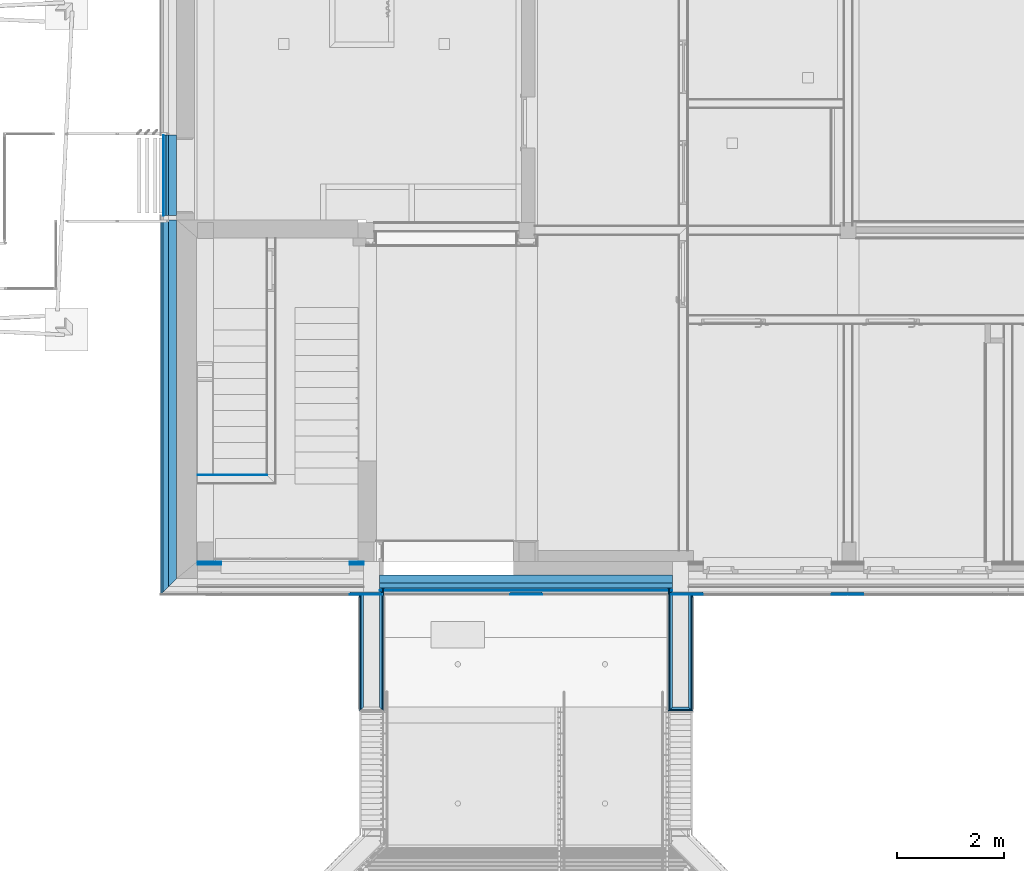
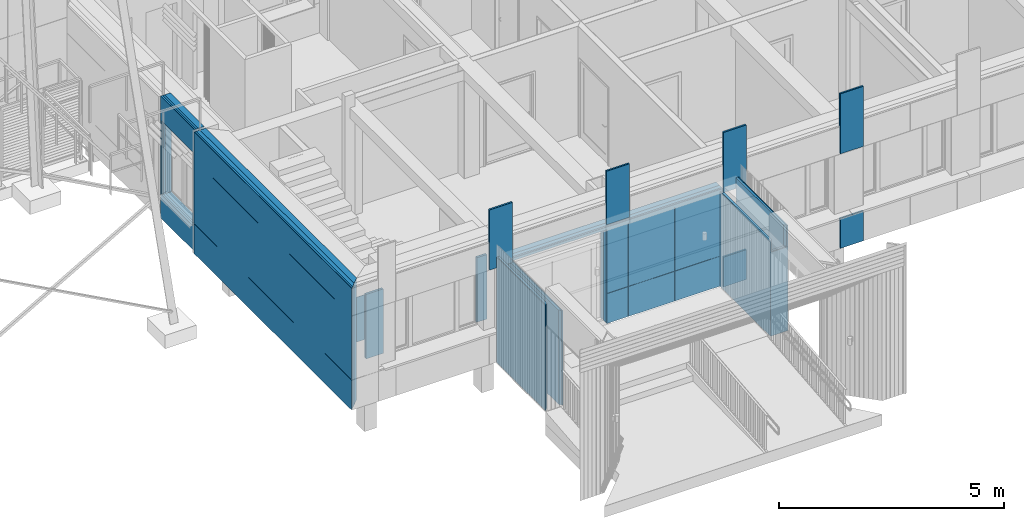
# One storey, part 30 of 418: 37 building element parts, 14 openings, 16 elements without a shape of their own.
"""IFC2X3 building model written with IfcOpenShell, lengths in millimetres."""

from ifc_helpers import new_model, entity, si_unit, converted_unit, derived_unit, money_unit, direction, frame, origin_with_axes, origin_2d_with_axis, place, context, subcontext, project, spatial, polyline, rectangle, outline, extrude, material, type_object, element, aggregate, save


model = new_model("IFC2X3")

# Units and contexts
model_context = context("Model", 3, precision=0.01, world=origin_with_axes(), true_north=direction((0.0, 1.0)))
body_context = subcontext(model_context, "Body", "Model", "MODEL_VIEW")
ifc_project = project(units=[si_unit("LENGTHUNIT", "METRE", prefix="MILLI"), si_unit("AREAUNIT", "SQUARE_METRE"), si_unit("VOLUMEUNIT", "CUBIC_METRE"), converted_unit("PLANEANGLEUNIT", "DEGREE", entity("IfcPlaneAngleMeasure", 0.0174532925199), si_unit("PLANEANGLEUNIT", "RADIAN"), dimensions=[0, 0, 0, 0, 0, 0, 0]), si_unit("SOLIDANGLEUNIT", "STERADIAN"), money_unit("EUR"), converted_unit("TIMEUNIT", "Year", entity("IfcTimeMeasure", 31556926.0), si_unit("TIMEUNIT", "SECOND"), dimensions=[0, 0, 1, 0, 0, 0, 0]), si_unit("MASSUNIT", "GRAM", prefix="KILO"), si_unit("THERMODYNAMICTEMPERATUREUNIT", "DEGREE_CELSIUS"), si_unit("LUMINOUSINTENSITYUNIT", "LUMEN"), si_unit("ENERGYUNIT", "JOULE", prefix="MEGA"), derived_unit("THERMALCONDUCTANCEUNIT", [(si_unit("POWERUNIT", "WATT"), 1), (si_unit("LENGTHUNIT", "METRE"), -1), (si_unit("THERMODYNAMICTEMPERATUREUNIT", "KELVIN"), -1)]), derived_unit("SPECIFICHEATCAPACITYUNIT", [(si_unit("ENERGYUNIT", "JOULE"), 1), (si_unit("MASSUNIT", "GRAM", prefix="KILO"), -1), (si_unit("THERMODYNAMICTEMPERATUREUNIT", "KELVIN"), -1)]), derived_unit("MASSDENSITYUNIT", [(si_unit("MASSUNIT", "GRAM", prefix="KILO"), 1), (si_unit("VOLUMEUNIT", "CUBIC_METRE"), -1)])], contexts=[model_context])

# Site, building, storey
site_placement = place(None, origin_with_axes())
site = spatial("IfcSite", under=ifc_project, at=site_placement, Name="Paldiski mnt 245/1, Tallinn, Harjumaa", CompositionType="COMPLEX")
building_placement = place(site_placement, origin_with_axes())
building = spatial("IfcBuilding", under=site, at=building_placement, Name="RKAS Hoone üldnimetus (kasutust iseloomustav) -> IFC Project Manager -> SOLIBRI", CompositionType="ELEMENT")
storey_placement = place(building_placement, origin_with_axes())
storey = spatial("IfcBuildingStorey", under=building, at=storey_placement, Name="Esimene korrus", CompositionType="ELEMENT", Elevation=0.0)

# Proxy, building element parts
building_element_proxy_type = type_object("IfcBuildingElementProxyType", Name="Varikatuse_sein ots soojustatud 75", PredefinedType="NOTDEFINED")
proxy_1_placement = place(storey_placement, frame((-44490.0, -12830.0843011, 0.0), z_axis=(0.0, 0.0, 1.0), x_axis=(0.0, -1.0, 0.0)))
proxy_1 = element("IfcBuildingElementProxy", 1, at=proxy_1_placement, inside=storey, type_object=building_element_proxy_type, Name="Varikatus")
ifc_material_1 = material(Name="SOJ-04_Soojustus - Mineraal Kõva")
building_element_part_1_placement = place(proxy_1_placement, origin_with_axes())
building_element_part_1 = element("IfcBuildingElementPart", 2, at=building_element_part_1_placement, material=ifc_material_1, Name="SOJ-04_Soojustus - Mineraal Kõva", context=body_context, shape_type="SweptSolid", body=[
    extrude(outline(polyline([(300.0, -50.0), (2451.00000039, -50.0), (2401.00000039, 0.0), (300.0, 0.0), (300.0, -50.0)])), origin_with_axes(), (0.0, 0.0, 1.0), 2852.84271247),
])
ifc_material_2 = material(Name="SKR-01_Õhkvahe - Raam")
building_element_part_2_placement = place(proxy_1_placement, origin_with_axes())
building_element_part_2 = element("IfcBuildingElementPart", 3, at=building_element_part_2_placement, material=ifc_material_2, Name="SKR-01_Õhkvahe - Raam", context=body_context, shape_type="SweptSolid", body=[
    extrude(outline(polyline([(300.0, -75.0), (2476.00000039, -75.0), (2451.00000039, -50.0), (300.0, -50.0), (300.0, -75.0)])), origin_with_axes(), (0.0, 0.0, 1.0), 2852.84271247),
])
aggregate(proxy_1, [building_element_part_1, building_element_part_2])

# Wall, openings, building element parts
wall_type_1 = type_object("IfcWallType", Name="VS-03B_uued kihid 300", PredefinedType="NOTDEFINED")
wall_1_placement = place(storey_placement, frame((-47980.0, -12830.0843011, 0.0), z_axis=(0.0, 0.0, 1.0), x_axis=(0.0, 1.0, 0.0)))
wall_1 = element("IfcWall", 4, at=wall_1_placement, inside=storey, type_object=wall_type_1, Name="VS-03")
opening_1_placement = place(wall_1_placement, frame((5576.00021402, -1.63424829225e-10, 0.0), z_axis=(0.0, 0.0, 1.0), x_axis=(1.0, 0.0, 0.0)))
element("IfcOpeningElement", 5, at=opening_1_placement, cuts=wall_1, Name="Cembrit fassaadiplaadi vuuk", context=body_context, shape_type="SweptSolid", body=[
    extrude(outline(polyline([(-4.0, 0.0), (4.0, 0.0), (4.0, 3300.0), (-4.0, 3300.0), (-4.0, 0.0)])), frame((0.0, 292.0, 0.0), z_axis=(0.0, 1.0, 0.0), x_axis=(-1.0, 0.0, 0.0)), (0.0, 0.0, 1.0), 308.0),
])
opening_2_placement = place(wall_1_placement, frame((4376.00021402, -1.27897692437e-10, 0.0), z_axis=(0.0, 0.0, 1.0), x_axis=(1.0, 0.0, 0.0)))
element("IfcOpeningElement", 6, at=opening_2_placement, cuts=wall_1, Name="Cembrit fassaadiplaadi vuuk", context=body_context, shape_type="SweptSolid", body=[
    extrude(outline(polyline([(-4.0, 0.0), (4.0, 0.0), (4.0, 3300.0), (-4.0, 3300.0), (-4.0, 0.0)])), frame((0.0, 292.0, 0.0), z_axis=(0.0, 1.0, 0.0), x_axis=(-1.0, 0.0, 0.0)), (0.0, 0.0, 1.0), 308.0),
])
opening_3_placement = place(wall_1_placement, frame((3176.00021402, 0.0, 0.0), z_axis=(0.0, 0.0, 1.0), x_axis=(1.0, 0.0, 0.0)))
element("IfcOpeningElement", 7, at=opening_3_placement, cuts=wall_1, Name="Cembrit fassaadiplaadi vuuk", context=body_context, shape_type="SweptSolid", body=[
    extrude(outline(polyline([(-4.0, 0.0), (4.0, 0.0), (4.0, 3300.0), (-4.0, 3300.0), (-4.0, 0.0)])), frame((0.0, 292.0, 0.0), z_axis=(0.0, 1.0, 0.0), x_axis=(-1.0, 0.0, 0.0)), (0.0, 0.0, 1.0), 308.0),
])
opening_4_placement = place(wall_1_placement, frame((1976.00021402, 0.0, 0.0), z_axis=(0.0, 0.0, 1.0), x_axis=(1.0, 0.0, 0.0)))
element("IfcOpeningElement", 8, at=opening_4_placement, cuts=wall_1, Name="Cembrit fassaadiplaadi vuuk", context=body_context, shape_type="SweptSolid", body=[
    extrude(outline(polyline([(-4.0, 0.0), (4.0, 0.0), (4.0, 3300.0), (-4.0, 3300.0), (-4.0, 0.0)])), frame((0.0, 292.0, 0.0), z_axis=(0.0, 1.0, 0.0), x_axis=(-1.0, 0.0, 0.0)), (0.0, 0.0, 1.0), 308.0),
])
opening_5_placement = place(wall_1_placement, frame((776.000214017, 0.0, 0.0), z_axis=(0.0, 0.0, 1.0), x_axis=(1.0, 0.0, 0.0)))
element("IfcOpeningElement", 9, at=opening_5_placement, cuts=wall_1, Name="Cembrit fassaadiplaadi vuuk", context=body_context, shape_type="SweptSolid", body=[
    extrude(outline(polyline([(-4.0, 0.0), (4.0, 0.0), (4.0, 3300.0), (-4.0, 3300.0), (-4.0, 0.0)])), frame((0.0, 292.0, 0.0), z_axis=(0.0, 1.0, 0.0), x_axis=(-1.0, 0.0, 0.0)), (0.0, 0.0, 1.0), 308.0),
])
opening_6_placement = place(wall_1_placement, frame((3200.00010701, 0.0, 2552.0), z_axis=(0.0, 0.0, 1.0), x_axis=(1.0, 0.0, 0.0)))
element("IfcOpeningElement", 10, at=opening_6_placement, cuts=wall_1, Name="Cembrit fassaadiplaadi vuuk", context=body_context, shape_type="SweptSolid", body=[
    extrude(outline(polyline([(-3500.00010701, 0.0), (3500.00010701, 0.0), (3500.00010701, 8.0), (-3500.00010701, 8.0), (-3500.00010701, 0.0)])), frame((0.0, 292.0, 0.0), z_axis=(0.0, 1.0, 0.0), x_axis=(-1.0, 0.0, 0.0)), (0.0, 0.0, 1.0), 308.0),
])
opening_7_placement = place(wall_1_placement, frame((3200.00010701, 0.0, 810.0), z_axis=(0.0, 0.0, 1.0), x_axis=(1.0, 0.0, 0.0)))
element("IfcOpeningElement", 11, at=opening_7_placement, cuts=wall_1, Name="Cembrit fassaadiplaadi vuuk", context=body_context, shape_type="SweptSolid", body=[
    extrude(outline(polyline([(-3500.00010701, 0.0), (3500.00010701, 0.0), (3500.00010701, 8.0), (-3500.00010701, 8.0), (-3500.00010701, 0.0)])), frame((0.0, 292.0, 0.0), z_axis=(0.0, 1.0, 0.0), x_axis=(-1.0, 0.0, 0.0)), (0.0, 0.0, 1.0), 308.0),
])
ifc_material_3 = material(Name="Cembrit_C020")
building_element_part_3_placement = place(wall_1_placement, origin_with_axes())
building_element_part_3 = element("IfcBuildingElementPart", 12, at=building_element_part_3_placement, material=ifc_material_3, Name="Cembrit_C020", context=body_context, shape_type="SweptSolid", body=[
    extrude(outline(polyline([(-292.0, 292.0), (6700.00021402, 292.0), (6700.00021402, 300.0), (-300.0, 300.0), (-292.0, 292.0)])), origin_with_axes(), (0.0, 0.0, 1.0), 3300.0),
])
ifc_material_4 = material(Name="VKR-06_Õhkvahe")
building_element_part_4_placement = place(wall_1_placement, origin_with_axes())
building_element_part_4 = element("IfcBuildingElementPart", 13, at=building_element_part_4_placement, material=ifc_material_4, Name="VKR-06_Õhkvahe", context=body_context, shape_type="SweptSolid", body=[
    extrude(outline(polyline([(-250.0, 250.0), (6700.00021402, 250.0), (6700.00021402, 292.0), (-292.0, 292.0), (-250.0, 250.0)])), origin_with_axes(), (0.0, 0.0, 1.0), 3300.0),
])
ifc_material_5 = material(Name="Kingspan Kooltherm")
building_element_part_5_placement = place(wall_1_placement, origin_with_axes())
building_element_part_5 = element("IfcBuildingElementPart", 14, at=building_element_part_5_placement, material=ifc_material_5, Name="Kingspan Kooltherm", context=body_context, shape_type="SweptSolid", body=[
    extrude(outline(polyline([(-150.0, 150.0), (6700.00021402, 150.0), (6700.00021402, 250.0), (-250.0, 250.0), (-150.0, 150.0)])), origin_with_axes(), (0.0, 0.0, 1.0), 3300.0),
])
building_element_part_6_placement = place(wall_1_placement, origin_with_axes())
building_element_part_6 = element("IfcBuildingElementPart", 15, at=building_element_part_6_placement, material=ifc_material_5, Name="Kingspan Kooltherm", context=body_context, shape_type="SweptSolid", body=[
    extrude(outline(polyline([(0.0, 0.0), (6700.00021402, 0.0), (6700.00021402, 150.0), (-150.0, 150.0), (0.0, 0.0)])), origin_with_axes(), (0.0, 0.0, 1.0), 3300.0),
])
aggregate(wall_1, [building_element_part_3, building_element_part_4, building_element_part_5, building_element_part_6])

# Covering, building element parts
covering_type = type_object("IfcCoveringType", Name="VS-02_Cembrit_c040 50", PredefinedType="NOTDEFINED")
covering_1_placement = place(storey_placement, frame((-38746.0, -13130.0843011, 0.0), z_axis=(0.0, 0.0, 1.0), x_axis=(1.0, 0.0, 0.0)))
covering_1 = element("IfcCovering", 16, at=covering_1_placement, inside=storey, type_object=covering_type, Name="VS-02", PredefinedType="NOTDEFINED")
ifc_material_6 = material(Name="Cembrit_C040")
building_element_part_7_placement = place(covering_1_placement, origin_with_axes())
building_element_part_7 = element("IfcBuildingElementPart", 17, at=building_element_part_7_placement, material=ifc_material_6, Name="Cembrit_C040", context=body_context, shape_type="SweptSolid", body=[
    extrude(outline(polyline([(0.0, 0.0), (592.0, 0.0), (592.0, 8.0), (0.0, 8.0), (0.0, 0.0)])), origin_with_axes(), (0.0, 0.0, 1.0), 810.0),
])
building_element_part_8_placement = place(covering_1_placement, origin_with_axes())
building_element_part_8 = element("IfcBuildingElementPart", 18, at=building_element_part_8_placement, material=ifc_material_4, Name="VKR-06_Õhkvahe", context=body_context, shape_type="SweptSolid", body=[
    extrude(outline(polyline([(0.0, 8.0), (592.0, 8.0), (592.0, 50.0), (0.0, 50.0), (0.0, 8.0)])), origin_with_axes(), (0.0, 0.0, 1.0), 810.0),
])
aggregate(covering_1, [building_element_part_7, building_element_part_8])

covering_2_placement = place(storey_placement, frame((-35746.0, -13130.0843011, 0.0), z_axis=(0.0, 0.0, 1.0), x_axis=(1.0, 0.0, 0.0)))
covering_2 = element("IfcCovering", 19, at=covering_2_placement, inside=storey, type_object=covering_type, Name="VS-02", PredefinedType="NOTDEFINED")
building_element_part_9_placement = place(covering_2_placement, origin_with_axes())
building_element_part_9 = element("IfcBuildingElementPart", 20, at=building_element_part_9_placement, material=ifc_material_6, Name="Cembrit_C040", context=body_context, shape_type="SweptSolid", body=[
    extrude(outline(polyline([(0.0, 0.0), (592.0, 0.0), (592.0, 8.0), (0.0, 8.0), (0.0, 0.0)])), origin_with_axes(), (0.0, 0.0, 1.0), 810.0),
])
building_element_part_10_placement = place(covering_2_placement, origin_with_axes())
building_element_part_10 = element("IfcBuildingElementPart", 21, at=building_element_part_10_placement, material=ifc_material_4, Name="VKR-06_Õhkvahe", context=body_context, shape_type="SweptSolid", body=[
    extrude(outline(polyline([(0.0, 8.0), (592.0, 8.0), (592.0, 50.0), (0.0, 50.0), (0.0, 8.0)])), origin_with_axes(), (0.0, 0.0, 1.0), 810.0),
])
aggregate(covering_2, [building_element_part_9, building_element_part_10])

covering_3_placement = place(storey_placement, frame((-44746.0, -13130.0843011, 2560.0), z_axis=(0.0, 0.0, 1.0), x_axis=(1.0, 0.0, 0.0)))
covering_3 = element("IfcCovering", 22, at=covering_3_placement, inside=storey, type_object=covering_type, Name="VS-02", PredefinedType="NOTDEFINED")
building_element_part_11_placement = place(covering_3_placement, origin_with_axes())
building_element_part_11 = element("IfcBuildingElementPart", 23, at=building_element_part_11_placement, material=ifc_material_6, Name="Cembrit_C040", context=body_context, shape_type="SweptSolid", body=[
    extrude(outline(polyline([(0.0, 0.0), (592.0, 0.0), (592.0, 8.0), (0.0, 8.0), (0.0, 0.0)])), origin_with_axes(), (0.0, 0.0, 1.0), 1630.0),
])
building_element_part_12_placement = place(covering_3_placement, origin_with_axes())
building_element_part_12 = element("IfcBuildingElementPart", 24, at=building_element_part_12_placement, material=ifc_material_4, Name="VKR-06_Õhkvahe", context=body_context, shape_type="SweptSolid", body=[
    extrude(outline(polyline([(0.0, 8.0), (592.0, 8.0), (592.0, 50.0), (0.0, 50.0), (0.0, 8.0)])), origin_with_axes(), (0.0, 0.0, 1.0), 1630.0),
])
aggregate(covering_3, [building_element_part_11, building_element_part_12])

covering_4_placement = place(storey_placement, frame((-41746.0, -13130.0843011, 2737.98526126), z_axis=(0.0, 0.0, 1.0), x_axis=(1.0, 0.0, 0.0)))
covering_4 = element("IfcCovering", 25, at=covering_4_placement, inside=storey, type_object=covering_type, Name="VS-02", PredefinedType="NOTDEFINED")
building_element_part_13_placement = place(covering_4_placement, origin_with_axes())
building_element_part_13 = element("IfcBuildingElementPart", 26, at=building_element_part_13_placement, material=ifc_material_6, Name="Cembrit_C040", context=body_context, shape_type="SweptSolid", body=[
    extrude(outline(polyline([(0.0, 0.0), (592.0, 0.0), (592.0, 8.0), (0.0, 8.0), (0.0, 0.0)])), origin_with_axes(), (0.0, 0.0, 1.0), 1452.01473874),
])
building_element_part_14_placement = place(covering_4_placement, origin_with_axes())
building_element_part_14 = element("IfcBuildingElementPart", 27, at=building_element_part_14_placement, material=ifc_material_4, Name="VKR-06_Õhkvahe", context=body_context, shape_type="SweptSolid", body=[
    extrude(outline(polyline([(0.0, 8.0), (592.0, 8.0), (592.0, 50.0), (0.0, 50.0), (0.0, 8.0)])), origin_with_axes(), (0.0, 0.0, 1.0), 1452.01473874),
])
aggregate(covering_4, [building_element_part_13, building_element_part_14])

covering_5_placement = place(storey_placement, frame((-38746.0, -13130.0843011, 2560.0), z_axis=(0.0, 0.0, 1.0), x_axis=(1.0, 0.0, 0.0)))
covering_5 = element("IfcCovering", 28, at=covering_5_placement, inside=storey, type_object=covering_type, Name="VS-02", PredefinedType="NOTDEFINED")
building_element_part_15_placement = place(covering_5_placement, origin_with_axes())
building_element_part_15 = element("IfcBuildingElementPart", 29, at=building_element_part_15_placement, material=ifc_material_6, Name="Cembrit_C040", context=body_context, shape_type="SweptSolid", body=[
    extrude(outline(polyline([(0.0, 0.0), (592.0, 0.0), (592.0, 8.0), (0.0, 8.0), (0.0, 0.0)])), origin_with_axes(), (0.0, 0.0, 1.0), 1630.0),
])
building_element_part_16_placement = place(covering_5_placement, origin_with_axes())
building_element_part_16 = element("IfcBuildingElementPart", 30, at=building_element_part_16_placement, material=ifc_material_4, Name="VKR-06_Õhkvahe", context=body_context, shape_type="SweptSolid", body=[
    extrude(outline(polyline([(0.0, 8.0), (592.0, 8.0), (592.0, 50.0), (0.0, 50.0), (0.0, 8.0)])), origin_with_axes(), (0.0, 0.0, 1.0), 1630.0),
])
aggregate(covering_5, [building_element_part_15, building_element_part_16])

covering_6_placement = place(storey_placement, frame((-35746.0, -13130.0843011, 2560.0), z_axis=(0.0, 0.0, 1.0), x_axis=(1.0, 0.0, 0.0)))
covering_6 = element("IfcCovering", 31, at=covering_6_placement, inside=storey, type_object=covering_type, Name="VS-02", PredefinedType="NOTDEFINED")
building_element_part_17_placement = place(covering_6_placement, origin_with_axes())
building_element_part_17 = element("IfcBuildingElementPart", 32, at=building_element_part_17_placement, material=ifc_material_6, Name="Cembrit_C040", context=body_context, shape_type="SweptSolid", body=[
    extrude(outline(polyline([(0.0, 0.0), (592.0, 0.0), (592.0, 8.0), (0.0, 8.0), (0.0, 0.0)])), origin_with_axes(), (0.0, 0.0, 1.0), 1630.0),
])
building_element_part_18_placement = place(covering_6_placement, origin_with_axes())
building_element_part_18 = element("IfcBuildingElementPart", 33, at=building_element_part_18_placement, material=ifc_material_4, Name="VKR-06_Õhkvahe", context=body_context, shape_type="SweptSolid", body=[
    extrude(outline(polyline([(0.0, 8.0), (592.0, 8.0), (592.0, 50.0), (0.0, 50.0), (0.0, 8.0)])), origin_with_axes(), (0.0, 0.0, 1.0), 1630.0),
])
aggregate(covering_6, [building_element_part_17, building_element_part_18])

# Proxy, building element parts
proxy_2_placement = place(storey_placement, frame((-38420.0, -15231.0843015, 0.0), z_axis=(0.0, 0.0, 1.0), x_axis=(0.0, 1.0, 0.0)))
proxy_2 = element("IfcBuildingElementProxy", 34, at=proxy_2_placement, inside=storey, type_object=building_element_proxy_type, Name="Varikatus")
building_element_part_19_placement = place(proxy_2_placement, origin_with_axes())
building_element_part_19 = element("IfcBuildingElementPart", 35, at=building_element_part_19_placement, material=ifc_material_1, Name="SOJ-04_Soojustus - Mineraal Kõva", context=body_context, shape_type="SweptSolid", body=[
    extrude(outline(polyline([(-50.0, -50.0), (2101.00000039, -50.0), (2101.00000039, 0.0), (0.0, 0.0), (-50.0, -50.0)])), origin_with_axes(), (0.0, 0.0, 1.0), 2852.84271247),
])
building_element_part_20_placement = place(proxy_2_placement, origin_with_axes())
building_element_part_20 = element("IfcBuildingElementPart", 36, at=building_element_part_20_placement, material=ifc_material_2, Name="SKR-01_Õhkvahe - Raam", context=body_context, shape_type="SweptSolid", body=[
    extrude(outline(polyline([(-75.0, -75.0), (2101.00000039, -75.0), (2101.00000039, -50.0), (-50.0, -50.0), (-75.0, -75.0)])), origin_with_axes(), (0.0, 0.0, 1.0), 2852.84271247),
])
aggregate(proxy_2, [building_element_part_19, building_element_part_20])

proxy_3_placement = place(storey_placement, frame((-38720.0, -13010.0843011, 0.0), z_axis=(0.0, 0.0, 1.0), x_axis=(0.0, -1.0, 0.0)))
proxy_3 = element("IfcBuildingElementProxy", 37, at=proxy_3_placement, inside=storey, type_object=building_element_proxy_type, Name="Varikatus")
building_element_part_21_placement = place(proxy_3_placement, origin_with_axes())
building_element_part_21 = element("IfcBuildingElementPart", 38, at=building_element_part_21_placement, material=ifc_material_1, Name="SOJ-04_Soojustus - Mineraal Kõva", context=body_context, shape_type="SweptSolid", body=[
    extrude(outline(polyline([(0.0, -50.0), (2271.00000039, -50.0), (2221.00000039, 0.0), (0.0, 0.0), (0.0, -50.0)])), origin_with_axes(), (0.0, 0.0, 1.0), 2560.0),
])
building_element_part_22_placement = place(proxy_3_placement, origin_with_axes())
building_element_part_22 = element("IfcBuildingElementPart", 39, at=building_element_part_22_placement, material=ifc_material_2, Name="SKR-01_Õhkvahe - Raam", context=body_context, shape_type="SweptSolid", body=[
    extrude(outline(polyline([(0.0, -75.0), (2296.00000039, -75.0), (2271.00000039, -50.0), (0.0, -50.0), (0.0, -75.0)])), origin_with_axes(), (0.0, 0.0, 1.0), 2560.0),
])
aggregate(proxy_3, [building_element_part_21, building_element_part_22])

proxy_4_placement = place(storey_placement, frame((-38720.0, -15231.0843015, 0.0), z_axis=(0.0, 0.0, 1.0), x_axis=(1.0, 0.0, 0.0)))
proxy_4 = element("IfcBuildingElementProxy", 40, at=proxy_4_placement, inside=storey, type_object=building_element_proxy_type, Name="Varikatus")
building_element_part_23_placement = place(proxy_4_placement, origin_with_axes())
building_element_part_23 = element("IfcBuildingElementPart", 41, at=building_element_part_23_placement, material=ifc_material_1, Name="SOJ-04_Soojustus - Mineraal Kõva", context=body_context, shape_type="SweptSolid", body=[
    extrude(outline(polyline([(-50.0, -50.0), (350.0, -50.0), (300.0, 0.0), (0.0, 0.0), (-50.0, -50.0)])), origin_with_axes(), (0.0, 0.0, 1.0), 2280.0),
])
building_element_part_24_placement = place(proxy_4_placement, origin_with_axes())
building_element_part_24 = element("IfcBuildingElementPart", 42, at=building_element_part_24_placement, material=ifc_material_2, Name="SKR-01_Õhkvahe - Raam", context=body_context, shape_type="SweptSolid", body=[
    extrude(outline(polyline([(-75.0, -75.0), (375.0, -75.0), (350.0, -50.0), (-50.0, -50.0), (-75.0, -75.0)])), origin_with_axes(), (0.0, 0.0, 1.0), 2280.0),
])
aggregate(proxy_4, [building_element_part_23, building_element_part_24])

proxy_5_placement = place(storey_placement, frame((-44190.0, -15231.0843015, 0.0), z_axis=(0.0, 0.0, 1.0), x_axis=(0.0, 1.0, 0.0)))
proxy_5 = element("IfcBuildingElementProxy", 43, at=proxy_5_placement, inside=storey, type_object=building_element_proxy_type, Name="Varikatus")
building_element_part_25_placement = place(proxy_5_placement, origin_with_axes())
building_element_part_25 = element("IfcBuildingElementPart", 44, at=building_element_part_25_placement, material=ifc_material_1, Name="SOJ-04_Soojustus - Mineraal Kõva", context=body_context, shape_type="SweptSolid", body=[
    extrude(outline(polyline([(-50.0, -50.0), (2221.00000039, -50.0), (2221.00000039, 0.0), (0.0, 0.0), (-50.0, -50.0)])), origin_with_axes(), (0.0, 0.0, 1.0), 2560.10177239),
])
building_element_part_26_placement = place(proxy_5_placement, origin_with_axes())
building_element_part_26 = element("IfcBuildingElementPart", 45, at=building_element_part_26_placement, material=ifc_material_2, Name="SKR-01_Õhkvahe - Raam", context=body_context, shape_type="SweptSolid", body=[
    extrude(outline(polyline([(-75.0, -75.0), (2221.00000039, -75.0), (2221.00000039, -50.0), (-50.0, -50.0), (-75.0, -75.0)])), origin_with_axes(), (0.0, 0.0, 1.0), 2560.10177239),
])
aggregate(proxy_5, [building_element_part_25, building_element_part_26])

# Wall, openings, building element parts
wall_type_2 = type_object("IfcWallType", Name="VS-03.1_uued_kihid 250", PredefinedType="NOTDEFINED")
wall_2_placement = place(storey_placement, frame((-47980.0, -4550.08406336, 0.0), z_axis=(0.0, 0.0, 1.0), x_axis=(0.0, -1.0, 0.0)))
wall_2 = element("IfcWall", 46, at=wall_2_placement, inside=storey, type_object=wall_type_2, Name="VS-03.1")
opening_8_placement = place(wall_2_placement, frame((750.000010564, 0.0, 0.0), z_axis=(0.0, 0.0, 1.0), x_axis=(1.0, 0.0, 0.0)))
element("IfcOpeningElement", 47, at=opening_8_placement, cuts=wall_2, Name="Cembrit fassaadiplaadi vuuk", context=body_context, shape_type="SweptSolid", body=[
    extrude(outline(polyline([(-4.0, 0.0), (4.0, 0.0), (4.0, 650.0), (-4.0, 650.0), (-4.0, 0.0)])), frame((0.0, -242.0, 0.0), z_axis=(0.0, -1.0, 0.0), x_axis=(1.0, 0.0, 0.0)), (0.0, 0.0, 1.0), 258.0),
])
opening_9_placement = place(wall_2_placement, frame((750.0, 0.0, 650.0), z_axis=(0.0, 0.0, 1.0), x_axis=(1.0, 0.0, 0.0)))
element("IfcOpeningElement", 48, at=opening_9_placement, cuts=wall_2, Name="A-05", context=body_context, shape_type="SweptSolid", body=[
    extrude(rectangle(XDim=1400.0, YDim=2000.0, at=origin_2d_with_axis()), frame((0.0, -110.0, 1000.0), z_axis=(0.0, -1.0, 0.0), x_axis=(-1.0, 0.0, 0.0)), (0.0, 0.0, 1.0), 390.0),
    extrude(rectangle(XDim=1400.0, YDim=2000.0, at=origin_2d_with_axis()), frame((0.0, -110.0, 1000.0), z_axis=(0.0, 1.0, 0.0), x_axis=(-1.0, 0.0, 0.0)), (0.0, 0.0, 1.0), 360.0),
    extrude(rectangle(XDim=1400.0, YDim=2000.0, at=origin_2d_with_axis()), frame((0.0, 0.0, 1000.0), z_axis=(0.0, 1.0, 0.0), x_axis=(-1.0, 0.0, 0.0)), (0.0, 0.0, 1.0), 390.0),
])
ifc_material_7 = material(Name="Cembrit_C060")
building_element_part_27_placement = place(wall_2_placement, origin_with_axes())
building_element_part_27 = element("IfcBuildingElementPart", 49, at=building_element_part_27_placement, material=ifc_material_7, Name="Cembrit_C060", context=body_context, shape_type="SweptSolid", body=[
    extrude(outline(polyline([(0.0, -250.0), (1500.00002113, -250.0), (1500.00002113, -242.0), (0.0, -242.0), (0.0, -250.0)])), origin_with_axes(), (0.0, 0.0, 1.0), 3300.0),
])
building_element_part_28_placement = place(wall_2_placement, origin_with_axes())
building_element_part_28 = element("IfcBuildingElementPart", 50, at=building_element_part_28_placement, material=ifc_material_4, Name="VKR-06_Õhkvahe", context=body_context, shape_type="SweptSolid", body=[
    extrude(outline(polyline([(0.0, -242.0), (1500.00002113, -242.0), (1500.00002113, -200.0), (0.0, -200.0), (0.0, -242.0)])), origin_with_axes(), (0.0, 0.0, 1.0), 3300.0),
])
building_element_part_29_placement = place(wall_2_placement, origin_with_axes())
building_element_part_29 = element("IfcBuildingElementPart", 51, at=building_element_part_29_placement, material=ifc_material_5, Name="Kingspan Kooltherm", context=body_context, shape_type="SweptSolid", body=[
    extrude(outline(polyline([(0.0, -200.0), (1500.00002113, -200.0), (1500.00002113, -150.0), (0.0, -150.0), (0.0, -200.0)])), origin_with_axes(), (0.0, 0.0, 1.0), 3300.0),
])
building_element_part_30_placement = place(wall_2_placement, origin_with_axes())
building_element_part_30 = element("IfcBuildingElementPart", 52, at=building_element_part_30_placement, material=ifc_material_5, Name="Kingspan Kooltherm", context=body_context, shape_type="SweptSolid", body=[
    extrude(outline(polyline([(0.0, -150.0), (1500.00002113, -150.0), (1500.00002113, 0.0), (0.0, 0.0), (0.0, -150.0)])), origin_with_axes(), (0.0, 0.0, 1.0), 3300.0),
])
aggregate(wall_2, [building_element_part_27, building_element_part_28, building_element_part_29, building_element_part_30])

# Wall, building element part
wall_type_3 = type_object("IfcWallType", Name="SS-04 170", PredefinedType="NOTDEFINED")
wall_3_placement = place(storey_placement, frame((-46130.0, -11060.5008533, 0.0), z_axis=(0.0, 0.0, 1.0), x_axis=(-1.0, 0.0, 0.0)))
wall_3 = element("IfcWall", 53, at=wall_3_placement, inside=storey, type_object=wall_type_3, Name="SS-04")
ifc_material_8 = material(Name="Krohv")
building_element_part_31_placement = place(wall_3_placement, origin_with_axes())
building_element_part_31 = element("IfcBuildingElementPart", 54, at=building_element_part_31_placement, material=ifc_material_8, Name="Krohv", context=body_context, shape_type="SweptSolid", body=[
    extrude(outline(polyline([(170.0, -170.0), (1460.0, -170.0), (1460.0, -160.0), (160.0, -160.0), (170.0, -170.0)])), origin_with_axes(), (0.0, 0.0, 1.0), 1214.63086414),
])
aggregate(wall_3, [building_element_part_31])

# Wall, opening, building element parts
wall_type_4 = type_object("IfcWallType", Name="VS-04_uued_sisekihid 63", PredefinedType="NOTDEFINED")
wall_4_placement = place(storey_placement, frame((-44490.000007, -12512.0843011, 810.0), z_axis=(0.0, 0.0, 1.0), x_axis=(-1.0, 0.0, 0.0)))
wall_4 = element("IfcWall", 55, at=wall_4_placement, inside=storey, type_object=wall_type_4, Name="VS-04")
opening_10_placement = place(wall_4_placement, frame((1459.99999301, 0.0, 0.0), z_axis=(0.0, 0.0, 1.0), x_axis=(1.0, 0.0, 0.0)))
element("IfcOpeningElement", 56, at=opening_10_placement, cuts=wall_4, Name="AVA", context=body_context, shape_type="SweptSolid", body=[
    extrude(rectangle(XDim=2400.0, YDim=1750.0, at=origin_2d_with_axis()), frame((0.0, -17.0, 875.0), z_axis=(0.0, -1.0, 0.0), x_axis=(1.0, 0.0, 0.0)), (0.0, 0.0, -1.0), 143.0),
    extrude(rectangle(XDim=2400.0, YDim=1750.0, at=origin_2d_with_axis()), frame((0.0, -17.0, 875.0), z_axis=(0.0, 1.0, 0.0), x_axis=(1.0, 0.0, 0.0)), (0.0, 0.0, -1.0), 143.0),
])
building_element_part_32_placement = place(wall_4_placement, origin_with_axes())
building_element_part_32 = element("IfcBuildingElementPart", 57, at=building_element_part_32_placement, material=ifc_material_4, Name="VKR-06_Õhkvahe", context=body_context, shape_type="SweptSolid", body=[
    extrude(outline(polyline([(0.0, 13.0), (3099.99999301, 13.0), (3099.99999301, 63.0), (0.0, 63.0), (0.0, 13.0)])), origin_with_axes(), (0.0, 0.0, 1.0), 1750.0),
])
ifc_material_9 = material(Name="Kipsplaat Knauf GKF vm")
building_element_part_33_placement = place(wall_4_placement, origin_with_axes())
building_element_part_33 = element("IfcBuildingElementPart", 58, at=building_element_part_33_placement, material=ifc_material_9, Name="Kipsplaat Knauf GKF vm", context=body_context, shape_type="SweptSolid", body=[
    extrude(outline(polyline([(0.0, 0.0), (3099.99999301, 0.0), (3099.99999301, 13.0), (0.0, 13.0), (0.0, 0.0)])), origin_with_axes(), (0.0, 0.0, 1.0), 1750.0),
])
aggregate(wall_4, [building_element_part_32, building_element_part_33])

# Wall, openings, building element parts
wall_type_5 = type_object("IfcWallType", Name="VS-03N_uued_kihid 300", PredefinedType="NOTDEFINED")
wall_5_placement = place(storey_placement, frame((-38720.0, -12760.0843011, 0.0), z_axis=(0.0, 0.0, 1.0), x_axis=(-1.0, 0.0, 0.0)))
wall_5 = element("IfcWall", 59, at=wall_5_placement, inside=storey, type_object=wall_type_5, Name="VS-03")
opening_11_placement = place(wall_5_placement, frame((1230.0, 0.0, 0.0), z_axis=(0.0, 0.0, 1.0), x_axis=(1.0, 0.0, 0.0)))
element("IfcOpeningElement", 60, at=opening_11_placement, cuts=wall_5, Name="Cembrit fassaadiplaadi vuuk", context=body_context, shape_type="SweptSolid", body=[
    extrude(outline(polyline([(-4.0, 0.0), (4.0, 0.0), (4.0, 2536.94375356), (-4.0, 2536.94375356), (-4.0, 0.0)])), frame((0.0, 292.0, 0.0), z_axis=(0.0, 1.0, 0.0), x_axis=(-1.0, 0.0, 0.0)), (0.0, 0.0, 1.0), 308.0),
])
opening_12_placement = place(wall_5_placement, frame((2430.0, 0.0, 0.0), z_axis=(0.0, 0.0, 1.0), x_axis=(1.0, 0.0, 0.0)))
element("IfcOpeningElement", 61, at=opening_12_placement, cuts=wall_5, Name="Cembrit fassaadiplaadi vuuk", context=body_context, shape_type="SweptSolid", body=[
    extrude(outline(polyline([(-4.0, 0.0), (4.0, 0.0), (4.0, 2536.94375356), (-4.0, 2536.94375356), (-4.0, 0.0)])), frame((0.0, 292.0, 0.0), z_axis=(0.0, 1.0, 0.0), x_axis=(-1.0, 0.0, 0.0)), (0.0, 0.0, 1.0), 308.0),
])
opening_13_placement = place(wall_5_placement, frame((1520.49999047, 0.0, 810.0), z_axis=(0.0, 0.0, 1.0), x_axis=(1.0, 0.0, 0.0)))
element("IfcOpeningElement", 62, at=opening_13_placement, cuts=wall_5, Name="Cembrit fassaadiplaadi vuuk", context=body_context, shape_type="SweptSolid", body=[
    extrude(outline(polyline([(-1449.50000953, 0.0), (1449.50000953, 0.0), (1449.50000953, 8.0), (-1449.50000953, 8.0), (-1449.50000953, 0.0)])), frame((0.0, 292.0, 0.0), z_axis=(0.0, 1.0, 0.0), x_axis=(-1.0, 0.0, 0.0)), (0.0, 0.0, 1.0), 308.0),
])
opening_14_placement = place(wall_5_placement, frame((4184.5, 0.0, 0.0), z_axis=(0.0, 0.0, 1.0), x_axis=(1.0, 0.0, 0.0)))
element("IfcOpeningElement", 63, at=opening_14_placement, cuts=wall_5, Name="VU-01", context=body_context, shape_type="SweptSolid", body=[
    extrude(rectangle(XDim=2430.0, YDim=2550.0, at=origin_2d_with_axis()), frame((0.0, 150.0, 1275.0), z_axis=(0.0, -1.0, 0.0), x_axis=(1.0, 0.0, 0.0)), (0.0, 0.0, -1.0), 450.0),
    extrude(rectangle(XDim=2430.0, YDim=2550.0, at=origin_2d_with_axis()), frame((0.0, 150.0, 1275.0), z_axis=(0.0, 1.0, 0.0), x_axis=(1.0, 0.0, 0.0)), (0.0, 0.0, -1.0), 450.0),
])
building_element_part_34_placement = place(wall_5_placement, origin_with_axes())
building_element_part_34 = element("IfcBuildingElementPart", 64, at=building_element_part_34_placement, material=ifc_material_7, Name="Cembrit_C060", context=body_context, shape_type="SweptSolid", body=[
    extrude(outline(polyline([(0.0, 292.0), (5470.0, 292.0), (5470.0, 300.0), (0.0, 300.0), (0.0, 292.0)])), origin_with_axes(), (0.0, 0.0, 1.0), 2620.0),
])
building_element_part_35_placement = place(wall_5_placement, origin_with_axes())
building_element_part_35 = element("IfcBuildingElementPart", 65, at=building_element_part_35_placement, material=ifc_material_4, Name="VKR-06_Õhkvahe", context=body_context, shape_type="SweptSolid", body=[
    extrude(outline(polyline([(0.0, 250.0), (5470.0, 250.0), (5470.0, 292.0), (0.0, 292.0), (0.0, 250.0)])), origin_with_axes(), (0.0, 0.0, 1.0), 2620.0),
])
building_element_part_36_placement = place(wall_5_placement, origin_with_axes())
building_element_part_36 = element("IfcBuildingElementPart", 66, at=building_element_part_36_placement, material=ifc_material_5, Name="Kingspan Kooltherm", context=body_context, shape_type="SweptSolid", body=[
    extrude(outline(polyline([(0.0, 150.0), (5470.0, 150.0), (5470.0, 250.0), (0.0, 250.0), (0.0, 150.0)])), origin_with_axes(), (0.0, 0.0, 1.0), 2620.0),
])
building_element_part_37_placement = place(wall_5_placement, origin_with_axes())
building_element_part_37 = element("IfcBuildingElementPart", 67, at=building_element_part_37_placement, material=ifc_material_5, Name="Kingspan Kooltherm", context=body_context, shape_type="SweptSolid", body=[
    extrude(outline(polyline([(0.0, 0.0), (5470.0, 0.0), (5470.0, 150.0), (0.0, 150.0), (0.0, 0.0)])), origin_with_axes(), (0.0, 0.0, 1.0), 2620.0),
])
aggregate(wall_5, [building_element_part_34, building_element_part_35, building_element_part_36, building_element_part_37])

save(model, "model.ifc")
